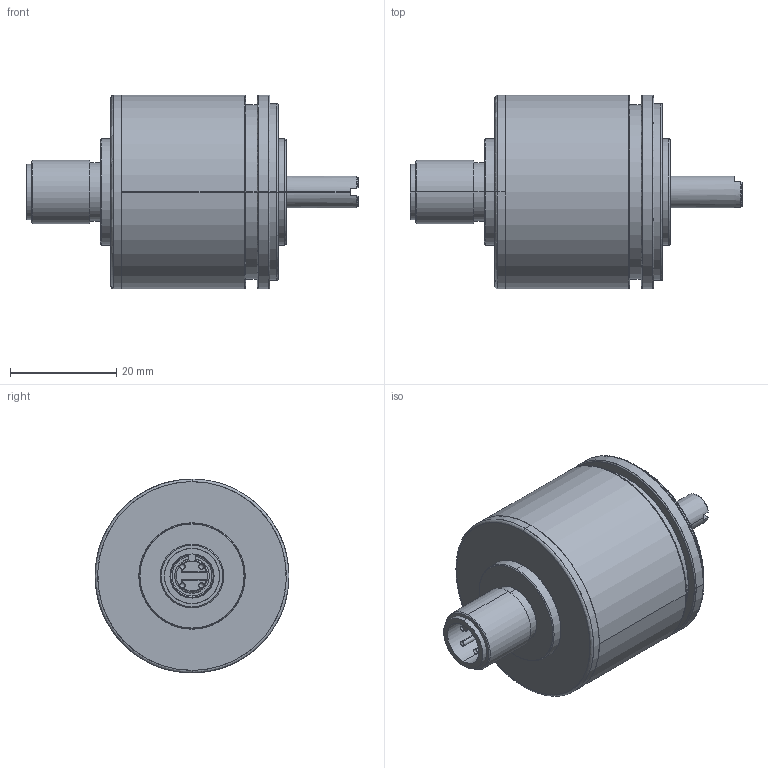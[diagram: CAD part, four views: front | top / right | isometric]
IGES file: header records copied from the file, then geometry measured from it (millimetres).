
Start section: SolidWorks IGES file using analytic representation for surfaces
Global section: file name: O:\08-Produkte_DatBlät&Beiblät&PrLi&Appl&Wettb\8-1 Megatron\8-1-11 Drehgeber\8-1-11-1 Datenblätter\MAB36A\3-D-Daten\MAB36_M12.IGS; native system: SolidWorks 2012; preprocessor: SolidWorks 2012; author: AlessandroC; date: 120809.163628; units: millimetre
Bounding box: 62.5 x 36.5 x 36.5 mm (x, y, z)
Surface area: 7924.5 mm2 (no closed solid volume)
Topology: 0 solids, 0 shells, 118 faces, 1708 edges, 1700 vertices
Faces by surface type: revolution 65, bspline 53
